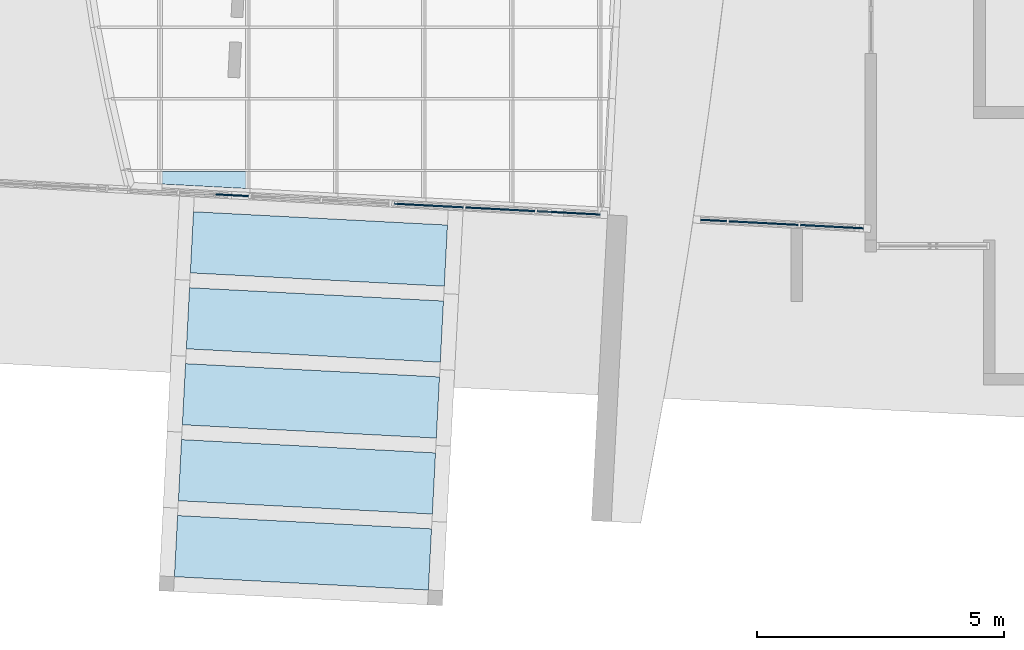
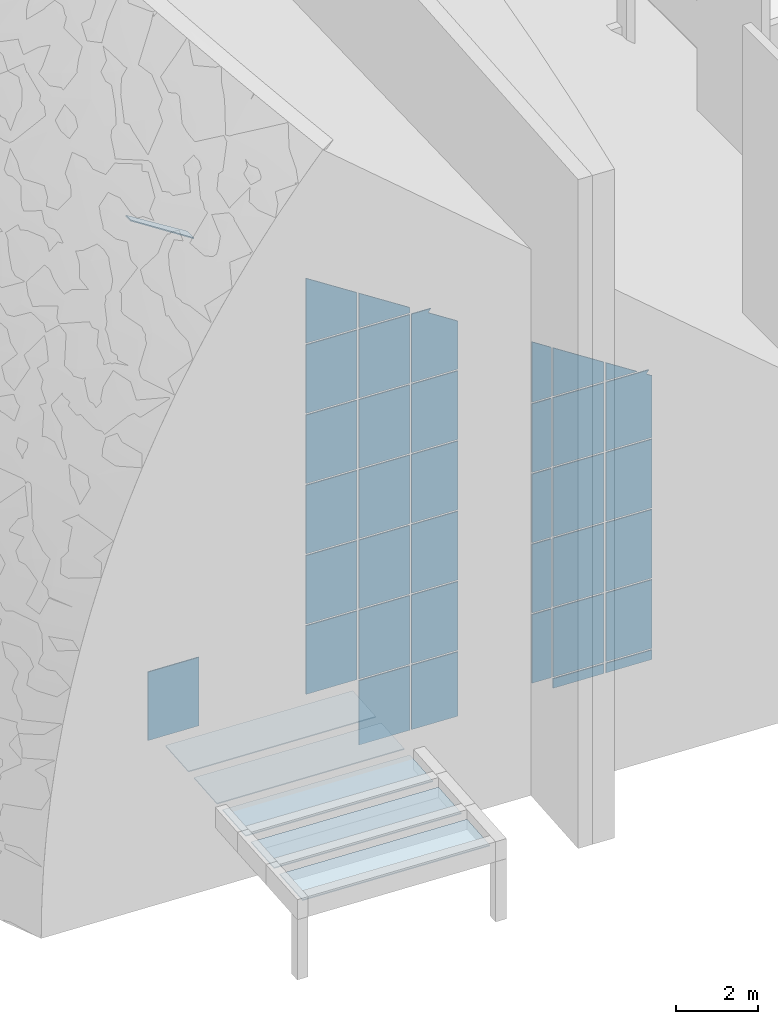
# One storey, part 35 of 82: 43 plates, 3 elements without a shape of their own.
"""IFC2X3 building model written with IfcOpenShell, lengths in millimetres."""

import ifcopenshell
import ifcopenshell.guid

model = None  # the IFC model being written
_history = None  # IfcOwnerHistory: only IFC2X3 demands one
_inside = {}  # id of a spatial element -> (the spatial element, [elements in it])
_under = {}  # id of a project, library or spatial element -> (it, [spatial elements below it])
_declared = {}  # id of a project -> (the project, [libraries it declares])
_typed = {}  # id of a type object -> (the type object, [elements of that type])
_made_of = {}  # id of a material, layer set ... -> (it, [elements and type objects made of it])


def new_model(schema):
    """Start an empty IFC model of exactly this schema.

    Asked for "IFC4X3", IfcOpenShell would pick the latest addendum, in which some entities
    have other attributes; the version numbers below select the first issue.
    IFC2X3 requires an IfcOwnerHistory on every rooted entity: one is made here for all.
    """
    global model, _history
    if schema == "IFC4X3":
        model = ifcopenshell.file(schema_version=(4, 3, 0, 0))
    else:
        model = ifcopenshell.file(schema=schema)
    _inside.clear()
    _under.clear()
    _declared.clear()
    _typed.clear()
    _made_of.clear()
    _history = None
    if model.schema == "IFC2X3":
        org = make("IfcOrganization", Name="unknown")
        user = make(
            "IfcPersonAndOrganization",
            ThePerson=make("IfcPerson", FamilyName="unknown"),
            TheOrganization=org,
        )
        app = make(
            "IfcApplication",
            ApplicationDeveloper=org,
            Version="unknown",
            ApplicationFullName="unknown",
            ApplicationIdentifier="unknown",
        )
        _history = make(
            "IfcOwnerHistory",
            OwningUser=user,
            OwningApplication=app,
            ChangeAction="ADDED",
            CreationDate=0,
        )
    return model


def make(cls, **values):
    """One entity of the class cls with the attributes given. An attribute that is None is left unset."""
    return model.create_entity(
        cls, **{name: value for name, value in values.items() if value is not None}
    )


def entity(cls, *values):
    """Any entity or typed value of the class cls, its attributes in the order of the schema. None: left unset."""
    e = model.create_entity(cls)
    for i, value in enumerate(values):
        if value is not None:
            e[i] = value
    return e


def rooted(cls, **values):
    """An entity with a GlobalId (a new one), such as an element, a storey or a relation."""
    return make(cls, GlobalId=ifcopenshell.guid.new(), OwnerHistory=_history, **values)


def si_unit(unit_type, name, prefix=None):
    """IfcSIUnit, for example si_unit("LENGTHUNIT", "METRE", prefix="MILLI")."""
    return make("IfcSIUnit", UnitType=unit_type, Prefix=prefix, Name=name)


def converted_unit(unit_type, name, factor, base, dimensions=None, offset=None):
    """IfcConversionBasedUnit, such as the inch: factor (a typed value) times the base unit."""
    return make(
        "IfcConversionBasedUnit"
        if offset is None
        else "IfcConversionBasedUnitWithOffset",
        ConversionOffset=offset,
        Dimensions=None
        if dimensions is None
        else entity("IfcDimensionalExponents", *dimensions),
        UnitType=unit_type,
        Name=name,
        ConversionFactor=make(
            "IfcMeasureWithUnit", ValueComponent=factor, UnitComponent=base
        ),
    )


def derived_unit(unit_type, elements):
    """IfcDerivedUnit: a product of units, each with its exponent."""
    return make(
        "IfcDerivedUnit",
        Elements=[
            make("IfcDerivedUnitElement", Unit=unit, Exponent=power)
            for unit, power in elements
        ],
        UnitType=unit_type,
    )


def assignment(units):
    """IfcUnitAssignment: the units of a project."""
    return None if units is None else make("IfcUnitAssignment", Units=units)


def point(xyz):
    """IfcCartesianPoint."""
    return None if xyz is None else make("IfcCartesianPoint", Coordinates=xyz)


def direction(xyz):
    """IfcDirection."""
    return None if xyz is None else make("IfcDirection", DirectionRatios=xyz)


def frame(location, z_axis=None, x_axis=None):
    """IfcAxis2Placement3D, a coordinate frame: its origin and axes. An axis left out is left unset."""
    return make(
        "IfcAxis2Placement3D",
        Location=point(location),
        Axis=direction(z_axis),
        RefDirection=direction(x_axis),
    )


def frame_2d(location, x_axis=None):
    """IfcAxis2Placement2D, a coordinate frame in the plane: its origin and x axis."""
    return make(
        "IfcAxis2Placement2D", Location=point(location), RefDirection=direction(x_axis)
    )


def origin():
    """The frame at (0, 0, 0) with its axes left unset."""
    return frame((0.0, 0.0, 0.0))


def origin_2d_with_axis():
    """The frame at (0, 0) in the plane with the x axis (1, 0) written out."""
    return frame_2d((0.0, 0.0), x_axis=(1.0, 0.0))


def place(relative_to, where):
    """IfcLocalPlacement: puts the frame where relative to a parent placement (None: the world)."""
    return make(
        "IfcLocalPlacement", PlacementRelTo=relative_to, RelativePlacement=where
    )


def context(
    kind, dimensions, precision=None, world=None, true_north=None, identifier=None
):
    """IfcGeometricRepresentationContext, for example the 3D "Model" context."""
    return make(
        "IfcGeometricRepresentationContext",
        ContextIdentifier=identifier,
        ContextType=kind,
        CoordinateSpaceDimension=dimensions,
        Precision=precision,
        WorldCoordinateSystem=world,
        TrueNorth=true_north,
    )


def subcontext(parent, identifier, kind, view, scale=None):
    """IfcGeometricRepresentationSubContext, for example "Body" below "Model"."""
    return make(
        "IfcGeometricRepresentationSubContext",
        ContextIdentifier=identifier,
        ContextType=kind,
        ParentContext=parent,
        TargetScale=scale,
        TargetView=view,
    )


def project(units=None, contexts=None):
    """IfcProject with its units and contexts."""
    return rooted(
        "IfcProject",
        Name="project",
        RepresentationContexts=contexts,
        UnitsInContext=assignment(units),
    )


def spatial(cls, under=None, at=None, **own):
    """A site, building, storey or space (cls), placed at a placement, below another one or the project."""
    s = rooted(cls, ObjectPlacement=at, **own)
    if under is not None:
        _under.setdefault(under.id(), (under, []))[1].append(s)
    return s


def polyline(points):
    """IfcPolyline through the points."""
    return make("IfcPolyline", Points=[point(p) for p in points])


def profile(cls, at=None, kind="AREA", **sizes):
    """A parametric profile (cls). Its sizes go by their IFC names, for example OverallWidth=200.0."""
    return make(cls, ProfileType=kind, Position=at, **sizes)


def rectangle(**sizes):
    """IfcRectangleProfileDef."""
    return profile("IfcRectangleProfileDef", **sizes)


def outline(outer, holes=None, kind="AREA"):
    """IfcArbitraryClosedProfileDef: a profile drawn as a closed curve; with holes, ...WithVoids."""
    if holes is None:
        return make("IfcArbitraryClosedProfileDef", ProfileType=kind, OuterCurve=outer)
    return make(
        "IfcArbitraryProfileDefWithVoids",
        ProfileType=kind,
        OuterCurve=outer,
        InnerCurves=holes,
    )


def extrude(swept, where, along, depth):
    """IfcExtrudedAreaSolid: the profile swept, set in the frame where, extruded along a direction by depth."""
    return make(
        "IfcExtrudedAreaSolid",
        SweptArea=swept,
        Position=where,
        ExtrudedDirection=direction(along),
        Depth=depth,
    )


def shape(context_of_items, identifier, shape_type, items):
    """IfcShapeRepresentation: the items that make up one representation, for example the "Body"."""
    return make(
        "IfcShapeRepresentation",
        ContextOfItems=context_of_items,
        RepresentationIdentifier=identifier,
        RepresentationType=shape_type,
        Items=items,
    )


def source(mapping_origin, context_of_items, identifier, shape_type, items):
    """IfcRepresentationMap: a shape defined once, which mapped items show again and again."""
    return make(
        "IfcRepresentationMap",
        MappingOrigin=mapping_origin,
        MappedRepresentation=shape(context_of_items, identifier, shape_type, items),
    )


def transform(
    local_origin,
    x_axis=None,
    y_axis=None,
    z_axis=None,
    scale=None,
    scale2=None,
    scale3=None,
    uniform=True,
):
    """IfcCartesianTransformationOperator3D, or its non-uniform kind. x_axis, y_axis, z_axis: its Axis1, 2, 3."""
    if uniform:
        return make(
            "IfcCartesianTransformationOperator3D",
            Axis1=direction(x_axis),
            Axis2=direction(y_axis),
            LocalOrigin=point(local_origin),
            Scale=scale,
            Axis3=direction(z_axis),
        )
    return make(
        "IfcCartesianTransformationOperator3DnonUniform",
        Axis1=direction(x_axis),
        Axis2=direction(y_axis),
        LocalOrigin=point(local_origin),
        Scale=scale,
        Axis3=direction(z_axis),
        Scale2=scale2,
        Scale3=scale3,
    )


def mapped(mapping_source, mapping_target):
    """IfcMappedItem: shows the shape of a source again, moved by a transform."""
    return make(
        "IfcMappedItem", MappingSource=mapping_source, MappingTarget=mapping_target
    )


def material(Name=None, Category=None):
    """IfcMaterial."""
    return make("IfcMaterial", Name=Name, Category=Category)


def layer(
    of_material, thickness, ventilated=None, Name=None, Category=None, Priority=None
):
    """IfcMaterialLayer: one layer of a wall or slab, of a material (None: an air gap)."""
    return make(
        "IfcMaterialLayer",
        Material=of_material,
        LayerThickness=thickness,
        IsVentilated=ventilated,
        Name=Name,
        Category=Category,
        Priority=Priority,
    )


def layer_set(layers, Name=None):
    """IfcMaterialLayerSet."""
    return make("IfcMaterialLayerSet", MaterialLayers=layers, LayerSetName=Name)


def layer_usage(for_layer_set, set_direction, sense, offset, extent=None):
    """IfcMaterialLayerSetUsage: how a layer set lies in its element."""
    return make(
        "IfcMaterialLayerSetUsage",
        ForLayerSet=for_layer_set,
        LayerSetDirection=set_direction,
        DirectionSense=sense,
        OffsetFromReferenceLine=offset,
        ReferenceExtent=extent,
    )


def made_of(thing, what):
    """Note that an element or type object is made of a material, layer set ...; save() writes the relation."""
    if what is not None:
        _made_of.setdefault(what.id(), (what, []))[1].append(thing)
    return thing


def type_object(cls, material=None, **own):
    """A type object (cls), such as IfcWallType, which elements share."""
    return made_of(rooted(cls, **own), material)


def type_shapes(of_type, sources):
    """Give a type object the sources (RepresentationMaps) that its elements show as mapped items."""
    of_type.RepresentationMaps = sources


def element(
    cls,
    number,
    at=None,
    inside=None,
    cuts=None,
    type_object=None,
    material=None,
    context=None,
    identifier="Body",
    shape_type=None,
    held_by="IfcProductDefinitionShape",
    body=None,
    shapes=None,
    **own,
):
    """One element of the class cls, such as IfcWall. Its Tag is "e" and its number.

    at: its placement. inside: the storey or other place that contains it. cuts: it is an
    opening in that element (IfcRelVoidsElement). A single representation is given by context,
    identifier, shape_type and body (its items); several are given by shapes. held_by: the class
    of the entity that holds the representations. save() writes the other relations.
    """
    e = rooted(cls, Tag="e%d" % number, ObjectPlacement=at, **own)
    if body is not None:
        shapes = [shape(context, identifier, shape_type, body)]
    if shapes is not None:
        e.Representation = make(held_by, Representations=shapes)
    if inside is not None:
        _inside.setdefault(inside.id(), (inside, []))[1].append(e)
    if cuts is not None:
        rooted(
            "IfcRelVoidsElement", RelatingBuildingElement=cuts, RelatedOpeningElement=e
        )
    if type_object is not None:
        _typed.setdefault(type_object.id(), (type_object, []))[1].append(e)
    return made_of(e, material)


def aggregate(whole, parts):
    """IfcRelAggregates: a whole, such as a stair, and the parts it consists of."""
    return rooted("IfcRelAggregates", RelatingObject=whole, RelatedObjects=parts)


def save(model, path):
    """Write the relations noted so far, then the file.

    IfcRelAggregates (storeys below a building ...), IfcRelContainedInSpatialStructure (elements
    in a storey), IfcRelDefinesByType, IfcRelAssociatesMaterial and IfcRelDeclares: one each for
    every whole, place, type object, material and project.
    """
    for whole, parts in _under.values():
        aggregate(whole, parts)
    for where, things in _inside.values():
        rooted(
            "IfcRelContainedInSpatialStructure",
            RelatedElements=things,
            RelatingStructure=where,
        )
    for kind, things in _typed.values():
        rooted("IfcRelDefinesByType", RelatedObjects=things, RelatingType=kind)
    for what, things in _made_of.values():
        rooted("IfcRelAssociatesMaterial", RelatedObjects=things, RelatingMaterial=what)
    for by, libraries in _declared.values():
        rooted("IfcRelDeclares", RelatingContext=by, RelatedDefinitions=libraries)
    model.write(path)


model = new_model("IFC2X3")

# Units and contexts
model_context = context("Model", 3, precision=0.01, world=origin(), true_north=direction((6.12303176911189e-17, 1.0)))
body_context = subcontext(model_context, "Body", "Model", "MODEL_VIEW")
ifc_project = project(units=[si_unit("LENGTHUNIT", "METRE", prefix="MILLI"), si_unit("AREAUNIT", "SQUARE_METRE"), si_unit("VOLUMEUNIT", "CUBIC_METRE"), converted_unit("PLANEANGLEUNIT", "DEGREE", entity("IfcRatioMeasure", 0.0174532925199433), si_unit("PLANEANGLEUNIT", "RADIAN"), dimensions=[0, 0, 0, 0, 0, 0, 0]), si_unit("MASSUNIT", "GRAM", prefix="KILO"), derived_unit("MASSDENSITYUNIT", [(si_unit("MASSUNIT", "GRAM", prefix="KILO"), 1), (si_unit("LENGTHUNIT", "METRE"), -3)]), si_unit("TIMEUNIT", "SECOND"), si_unit("FREQUENCYUNIT", "HERTZ"), si_unit("THERMODYNAMICTEMPERATUREUNIT", "DEGREE_CELSIUS"), derived_unit("THERMALTRANSMITTANCEUNIT", [(si_unit("MASSUNIT", "GRAM", prefix="KILO"), 1), (si_unit("THERMODYNAMICTEMPERATUREUNIT", "KELVIN"), -1), (si_unit("TIMEUNIT", "SECOND"), -3)]), derived_unit("VOLUMETRICFLOWRATEUNIT", [(si_unit("LENGTHUNIT", "METRE"), 3), (si_unit("TIMEUNIT", "SECOND"), -1)]), si_unit("ELECTRICCURRENTUNIT", "AMPERE"), si_unit("ELECTRICVOLTAGEUNIT", "VOLT"), si_unit("POWERUNIT", "WATT"), si_unit("FORCEUNIT", "NEWTON", prefix="KILO"), si_unit("ILLUMINANCEUNIT", "LUX"), si_unit("LUMINOUSFLUXUNIT", "LUMEN"), si_unit("LUMINOUSINTENSITYUNIT", "CANDELA"), derived_unit("USERDEFINED", [(si_unit("MASSUNIT", "GRAM", prefix="KILO"), -1), (si_unit("LENGTHUNIT", "METRE"), -2), (si_unit("TIMEUNIT", "SECOND"), 3), (si_unit("LUMINOUSFLUXUNIT", "LUMEN"), 1)]), derived_unit("LINEARVELOCITYUNIT", [(si_unit("LENGTHUNIT", "METRE"), 1), (si_unit("TIMEUNIT", "SECOND"), -1)]), si_unit("PRESSUREUNIT", "PASCAL"), derived_unit("USERDEFINED", [(si_unit("LENGTHUNIT", "METRE"), -2), (si_unit("MASSUNIT", "GRAM", prefix="KILO"), 1), (si_unit("TIMEUNIT", "SECOND"), -2)])], contexts=[model_context])

# Site, building, storey
site_placement = place(None, origin())
site = spatial("IfcSite", under=ifc_project, at=site_placement, Name="表面", CompositionType="ELEMENT")
building_placement = place(site_placement, origin())
building = spatial("IfcBuilding", under=site, at=building_placement, CompositionType="ELEMENT")
storey_placement = place(building_placement, origin())
storey = spatial("IfcBuildingStorey", under=building, at=storey_placement, Name="1F", CompositionType="ELEMENT", Elevation=0.0)

# Curtain wall, plates
curtain_wall_type_1 = type_object("IfcCurtainWallType", Name="幕墙系统:1450 x 2100mm", PredefinedType="NOTDEFINED")
curtain_wall_1_placement = place(storey_placement, origin())
curtain_wall_1 = element("IfcCurtainWall", 1, at=curtain_wall_1_placement, inside=storey, type_object=curtain_wall_type_1, Name="幕墙系统:1450 x 2100mm", ObjectType="幕墙系统:1450 x 2100mm")
ifc_material_1 = material(Name="<Unnamed>")
ifc_layer = layer(ifc_material_1, 30.0)
ifc_layer_set = layer_set([ifc_layer], Name="幕墙系统:1450 x 2100mm")
ifc_layer_usage_1 = layer_usage(ifc_layer_set, "AXIS3", "POSITIVE", 0.0)
plate_type_1 = type_object("IfcPlateType", Name="玻璃", PredefinedType="CURTAIN_PANEL", material=ifc_layer_set)
shared_shape_1 = source(origin(), body_context, "Body", "SweptSolid", [
    extrude(rectangle(XDim=30.0, YDim=1400.0, at=frame_2d((0.0, 3.97903932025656e-13), x_axis=(1.0, 0.0))), frame((0.0, 0.0, 0.0), z_axis=(0.0, 0.0, 1.0), x_axis=(0.0, 1.0, 0.0)), (0.0, 0.0, 1.0), 2050.0),
])
type_shapes(plate_type_1, [shared_shape_1])
plate_1_placement = place(curtain_wall_1_placement, frame((-16602.2691507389, -28953.0377218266, 485.207110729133), z_axis=(0.0, 0.0, 1.0), x_axis=(-0.998629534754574, 0.0523359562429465, 0.0)))
plate_1 = element("IfcPlate", 2, at=plate_1_placement, type_object=plate_type_1, material=ifc_layer_usage_1, Name="系统嵌板:玻璃", ObjectType="玻璃", context=body_context, shape_type="MappedRepresentation", body=[
    mapped(shared_shape_1, transform((0.0, 0.0, 0.0), scale=1.0)),
])
ifc_layer_usage_2 = layer_usage(ifc_layer_set, "AXIS3", "POSITIVE", 0.0)
plate_2_placement = place(curtain_wall_1_placement, frame((-16602.2691507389, -28953.0377218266, 2585.20711072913), z_axis=(0.0, 0.0, 1.0), x_axis=(-0.998629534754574, 0.0523359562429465, 0.0)))
plate_2 = element("IfcPlate", 3, at=plate_2_placement, type_object=plate_type_1, material=ifc_layer_usage_2, Name="系统嵌板:玻璃", ObjectType="玻璃", context=body_context, shape_type="MappedRepresentation", body=[
    mapped(shared_shape_1, transform((0.0, 0.0, 0.0), scale=1.0)),
])
ifc_layer_usage_3 = layer_usage(ifc_layer_set, "AXIS3", "POSITIVE", 0.0)
plate_3_placement = place(curtain_wall_1_placement, frame((-16602.2691507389, -28953.0377218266, 4685.20711072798), z_axis=(0.0, 0.0, 1.0), x_axis=(-0.998629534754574, 0.0523359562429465, 0.0)))
plate_3 = element("IfcPlate", 4, at=plate_3_placement, type_object=plate_type_1, material=ifc_layer_usage_3, Name="系统嵌板:玻璃", ObjectType="玻璃", context=body_context, shape_type="MappedRepresentation", body=[
    mapped(shared_shape_1, transform((0.0, 0.0, 0.0), scale=1.0)),
])
ifc_layer_usage_4 = layer_usage(ifc_layer_set, "AXIS3", "POSITIVE", 0.0)
plate_4_placement = place(curtain_wall_1_placement, frame((-16602.2691507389, -28953.0377218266, 6785.20711072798), z_axis=(0.0, 0.0, 1.0), x_axis=(-0.998629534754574, 0.0523359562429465, 0.0)))
plate_4 = element("IfcPlate", 5, at=plate_4_placement, type_object=plate_type_1, material=ifc_layer_usage_4, Name="系统嵌板:玻璃", ObjectType="玻璃", context=body_context, shape_type="MappedRepresentation", body=[
    mapped(shared_shape_1, transform((0.0, 0.0, 0.0), scale=1.0)),
])

curtain_wall_2_placement = place(storey_placement, origin())
curtain_wall_2 = element("IfcCurtainWall", 6, at=curtain_wall_2_placement, inside=storey, type_object=curtain_wall_type_1, Name="幕墙系统:1450 x 2100mm", ObjectType="幕墙系统:1450 x 2100mm")
ifc_layer_usage_5 = layer_usage(ifc_layer_set, "AXIS3", "POSITIVE", 0.0)
plate_5_placement = place(curtain_wall_2_placement, frame((-21932.6324926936, -28673.685216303, 2125.0), z_axis=(0.0, 0.0, 1.0), x_axis=(-0.998629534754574, 0.0523359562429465, 0.0)))
plate_5 = element("IfcPlate", 7, at=plate_5_placement, type_object=plate_type_1, material=ifc_layer_usage_5, Name="系统嵌板:玻璃", ObjectType="玻璃", context=body_context, shape_type="MappedRepresentation", body=[
    mapped(shared_shape_1, transform((0.0, 0.0, 0.0), scale=1.0)),
])
ifc_layer_usage_6 = layer_usage(ifc_layer_set, "AXIS3", "POSITIVE", 0.0)
plate_6_placement = place(curtain_wall_2_placement, frame((-23380.6453180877, -28597.7980797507, 2125.0), z_axis=(0.0, 0.0, 1.0), x_axis=(-0.998629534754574, 0.0523359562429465, 0.0)))
plate_6 = element("IfcPlate", 8, at=plate_6_placement, type_object=plate_type_1, material=ifc_layer_usage_6, Name="系统嵌板:玻璃", ObjectType="玻璃", context=body_context, shape_type="MappedRepresentation", body=[
    mapped(shared_shape_1, transform((0.0, 0.0, 0.0), scale=1.0)),
])
ifc_layer_usage_7 = layer_usage(ifc_layer_set, "AXIS3", "POSITIVE", 0.0)
plate_7_placement = place(curtain_wall_2_placement, frame((-27724.6837942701, -28370.1366700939, 2125.0), z_axis=(0.0, 0.0, 1.0), x_axis=(-0.998629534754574, 0.0523359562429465, 0.0)))
plate_7 = element("IfcPlate", 9, at=plate_7_placement, type_object=plate_type_1, material=ifc_layer_usage_7, Name="系统嵌板:玻璃", ObjectType="玻璃", context=body_context, shape_type="MappedRepresentation", body=[
    mapped(shared_shape_1, transform((0.0, 0.0, 0.0), scale=1.0)),
])
ifc_layer_usage_8 = layer_usage(ifc_layer_set, "AXIS3", "POSITIVE", 0.0)
plate_8_placement = place(curtain_wall_2_placement, frame((-21932.6324926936, -28673.685216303, 4225.0), z_axis=(0.0, 0.0, 1.0), x_axis=(-0.998629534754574, 0.0523359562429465, 0.0)))
plate_8 = element("IfcPlate", 10, at=plate_8_placement, type_object=plate_type_1, material=ifc_layer_usage_8, Name="系统嵌板:玻璃", ObjectType="玻璃", context=body_context, shape_type="MappedRepresentation", body=[
    mapped(shared_shape_1, transform((0.0, 0.0, 0.0), scale=1.0)),
])
ifc_layer_usage_9 = layer_usage(ifc_layer_set, "AXIS3", "POSITIVE", 0.0)
plate_9_placement = place(curtain_wall_2_placement, frame((-23380.6453180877, -28597.7980797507, 4225.0), z_axis=(0.0, 0.0, 1.0), x_axis=(-0.998629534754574, 0.0523359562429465, 0.0)))
plate_9 = element("IfcPlate", 11, at=plate_9_placement, type_object=plate_type_1, material=ifc_layer_usage_9, Name="系统嵌板:玻璃", ObjectType="玻璃", context=body_context, shape_type="MappedRepresentation", body=[
    mapped(shared_shape_1, transform((0.0, 0.0, 0.0), scale=1.0)),
])
ifc_layer_usage_10 = layer_usage(ifc_layer_set, "AXIS3", "POSITIVE", 0.0)
plate_10_placement = place(curtain_wall_2_placement, frame((-21932.6324926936, -28673.685216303, 6325.0), z_axis=(0.0, 0.0, 1.0), x_axis=(-0.998629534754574, 0.0523359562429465, 0.0)))
plate_10 = element("IfcPlate", 12, at=plate_10_placement, type_object=plate_type_1, material=ifc_layer_usage_10, Name="系统嵌板:玻璃", ObjectType="玻璃", context=body_context, shape_type="MappedRepresentation", body=[
    mapped(shared_shape_1, transform((0.0, 0.0, 0.0), scale=1.0)),
])
ifc_layer_usage_11 = layer_usage(ifc_layer_set, "AXIS3", "POSITIVE", 0.0)
plate_11_placement = place(curtain_wall_2_placement, frame((-23380.6453180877, -28597.7980797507, 6325.0), z_axis=(0.0, 0.0, 1.0), x_axis=(-0.998629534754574, 0.0523359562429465, 0.0)))
plate_11 = element("IfcPlate", 13, at=plate_11_placement, type_object=plate_type_1, material=ifc_layer_usage_11, Name="系统嵌板:玻璃", ObjectType="玻璃", context=body_context, shape_type="MappedRepresentation", body=[
    mapped(shared_shape_1, transform((0.0, 0.0, 0.0), scale=1.0)),
])
ifc_layer_usage_12 = layer_usage(ifc_layer_set, "AXIS3", "POSITIVE", 0.0)
plate_12_placement = place(curtain_wall_2_placement, frame((-21932.6324926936, -28673.685216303, 8425.0), z_axis=(0.0, 0.0, 1.0), x_axis=(-0.998629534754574, 0.0523359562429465, 0.0)))
plate_12 = element("IfcPlate", 14, at=plate_12_placement, type_object=plate_type_1, material=ifc_layer_usage_12, Name="系统嵌板:玻璃", ObjectType="玻璃", context=body_context, shape_type="MappedRepresentation", body=[
    mapped(shared_shape_1, transform((0.0, 0.0, 0.0), scale=1.0)),
])
ifc_layer_usage_13 = layer_usage(ifc_layer_set, "AXIS3", "POSITIVE", 0.0)
plate_13_placement = place(curtain_wall_2_placement, frame((-23380.6453180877, -28597.7980797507, 8425.0), z_axis=(0.0, 0.0, 1.0), x_axis=(-0.998629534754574, 0.0523359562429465, 0.0)))
plate_13 = element("IfcPlate", 15, at=plate_13_placement, type_object=plate_type_1, material=ifc_layer_usage_13, Name="系统嵌板:玻璃", ObjectType="玻璃", context=body_context, shape_type="MappedRepresentation", body=[
    mapped(shared_shape_1, transform((0.0, 0.0, 0.0), scale=1.0)),
])
ifc_layer_usage_14 = layer_usage(ifc_layer_set, "AXIS3", "POSITIVE", 0.0)
plate_14_placement = place(curtain_wall_2_placement, frame((-21932.6324926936, -28673.685216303, 10525.0), z_axis=(0.0, 0.0, 1.0), x_axis=(-0.998629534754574, 0.0523359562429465, 0.0)))
plate_14 = element("IfcPlate", 16, at=plate_14_placement, type_object=plate_type_1, material=ifc_layer_usage_14, Name="系统嵌板:玻璃", ObjectType="玻璃", context=body_context, shape_type="MappedRepresentation", body=[
    mapped(shared_shape_1, transform((0.0, 0.0, 0.0), scale=1.0)),
])
ifc_layer_usage_15 = layer_usage(ifc_layer_set, "AXIS3", "POSITIVE", 0.0)
plate_15_placement = place(curtain_wall_2_placement, frame((-23380.6453180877, -28597.7980797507, 10525.0), z_axis=(0.0, 0.0, 1.0), x_axis=(-0.998629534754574, 0.0523359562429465, 0.0)))
plate_15 = element("IfcPlate", 17, at=plate_15_placement, type_object=plate_type_1, material=ifc_layer_usage_15, Name="系统嵌板:玻璃", ObjectType="玻璃", context=body_context, shape_type="MappedRepresentation", body=[
    mapped(shared_shape_1, transform((0.0, 0.0, 0.0), scale=1.0)),
])
ifc_layer_usage_16 = layer_usage(ifc_layer_set, "AXIS3", "POSITIVE", 0.0)
plate_type_2 = type_object("IfcPlateType", Name="玻璃", PredefinedType="CURTAIN_PANEL", material=ifc_layer_set)
shared_shape_2 = source(origin(), body_context, "Body", "SweptSolid", [
    extrude(rectangle(XDim=30.0, YDim=1400.0, at=frame_2d((0.0, 3.97903932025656e-13), x_axis=(1.0, 0.0))), frame((0.0, 0.0, 0.0), z_axis=(0.0, 0.0, 1.0), x_axis=(0.0, 1.0, 0.0)), (0.0, 0.0, 1.0), 1925.0),
])
type_shapes(plate_type_2, [shared_shape_2])
plate_16_placement = place(curtain_wall_2_placement, frame((-21932.6324926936, -28673.685216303, 150.0), z_axis=(0.0, 0.0, 1.0), x_axis=(-0.998629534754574, 0.0523359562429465, 0.0)))
plate_16 = element("IfcPlate", 18, at=plate_16_placement, type_object=plate_type_2, material=ifc_layer_usage_16, Name="系统嵌板:玻璃", ObjectType="玻璃", context=body_context, shape_type="MappedRepresentation", body=[
    mapped(shared_shape_2, transform((0.0, 0.0, 0.0), scale=1.0)),
])

# Plate
ifc_layer_usage_17 = layer_usage(ifc_layer_set, "AXIS3", "POSITIVE", 0.0)
plate_type_3 = type_object("IfcPlateType", Name="玻璃", PredefinedType="CURTAIN_PANEL", material=ifc_layer_set)
shared_shape_3 = source(origin(), body_context, "Body", "SweptSolid", [
    extrude(rectangle(XDim=30.0, YDim=1275.0, at=frame_2d((0.0, 3.97903932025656e-13), x_axis=(1.0, 0.0))), frame((0.0, 0.0, 0.0), z_axis=(0.0, 0.0, 1.0), x_axis=(0.0, 1.0, 0.0)), (0.0, 0.0, 1.0), 285.207110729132),
])
type_shapes(plate_type_3, [shared_shape_3])
plate_17_placement = place(curtain_wall_1_placement, frame((-15216.6706712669, -29025.6538611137, 150.0), z_axis=(0.0, 0.0, 1.0), x_axis=(-0.998629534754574, 0.0523359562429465, 0.0)))
plate_17 = element("IfcPlate", 19, at=plate_17_placement, type_object=plate_type_3, material=ifc_layer_usage_17, Name="系统嵌板:玻璃", ObjectType="玻璃", context=body_context, shape_type="MappedRepresentation", body=[
    mapped(shared_shape_3, transform((0.0, 0.0, 0.0), scale=1.0)),
])

ifc_layer_usage_18 = layer_usage(ifc_layer_set, "AXIS3", "POSITIVE", 0.0)
plate_type_4 = type_object("IfcPlateType", Name="玻璃", PredefinedType="CURTAIN_PANEL", material=ifc_layer_set)
shared_shape_4 = source(origin(), body_context, "Body", "SweptSolid", [
    extrude(rectangle(XDim=30.0, YDim=1400.0, at=frame_2d((0.0, -1.13686837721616e-13), x_axis=(1.0, 0.0))), frame((0.0, 0.0, 0.0), z_axis=(0.0, 0.0, 1.0), x_axis=(0.0, 1.0, 0.0)), (0.0, 0.0, 1.0), 285.207110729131),
])
type_shapes(plate_type_4, [shared_shape_4])
plate_18_placement = place(curtain_wall_1_placement, frame((-16602.2691507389, -28953.0377218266, 150.0), z_axis=(0.0, 0.0, 1.0), x_axis=(-0.998629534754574, 0.0523359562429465, 0.0)))
plate_18 = element("IfcPlate", 20, at=plate_18_placement, type_object=plate_type_4, material=ifc_layer_usage_18, Name="系统嵌板:玻璃", ObjectType="玻璃", context=body_context, shape_type="MappedRepresentation", body=[
    mapped(shared_shape_4, transform((0.0, 0.0, 0.0), scale=1.0)),
])

ifc_layer_usage_19 = layer_usage(ifc_layer_set, "AXIS3", "POSITIVE", 0.0)
plate_type_5 = type_object("IfcPlateType", Name="玻璃", PredefinedType="CURTAIN_PANEL", material=ifc_layer_set)
shared_shape_5 = source(origin(), body_context, "Body", "SweptSolid", [
    extrude(rectangle(XDim=30.0, YDim=1275.0, at=frame_2d((0.0, 3.97903932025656e-13), x_axis=(1.0, 0.0))), frame((0.0, 0.0, 0.0), z_axis=(0.0, 0.0, 1.0), x_axis=(0.0, 1.0, 0.0)), (0.0, 0.0, 1.0), 2050.0),
])
type_shapes(plate_type_5, [shared_shape_5])
plate_19_placement = place(curtain_wall_1_placement, frame((-15216.6706712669, -29025.6538611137, 485.207110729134), z_axis=(0.0, 0.0, 1.0), x_axis=(-0.998629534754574, 0.0523359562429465, 0.0)))
plate_19 = element("IfcPlate", 21, at=plate_19_placement, type_object=plate_type_5, material=ifc_layer_usage_19, Name="系统嵌板:玻璃", ObjectType="玻璃", context=body_context, shape_type="MappedRepresentation", body=[
    mapped(shared_shape_5, transform((0.0, 0.0, 0.0), scale=1.0)),
])

ifc_layer_usage_20 = layer_usage(ifc_layer_set, "AXIS3", "POSITIVE", 0.0)
plate_20_placement = place(curtain_wall_1_placement, frame((-15216.6706712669, -29025.6538611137, 2585.20711072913), z_axis=(0.0, 0.0, 1.0), x_axis=(-0.998629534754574, 0.0523359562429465, 0.0)))
plate_20 = element("IfcPlate", 22, at=plate_20_placement, type_object=plate_type_5, material=ifc_layer_usage_20, Name="系统嵌板:玻璃", ObjectType="玻璃", context=body_context, shape_type="MappedRepresentation", body=[
    mapped(shared_shape_5, transform((0.0, 0.0, 0.0), scale=1.0)),
])

ifc_layer_usage_21 = layer_usage(ifc_layer_set, "AXIS3", "POSITIVE", 0.0)
plate_21_placement = place(curtain_wall_1_placement, frame((-15216.6706712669, -29025.6538611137, 4685.20711072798), z_axis=(0.0, 0.0, 1.0), x_axis=(-0.998629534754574, 0.0523359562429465, 0.0)))
plate_21 = element("IfcPlate", 23, at=plate_21_placement, type_object=plate_type_5, material=ifc_layer_usage_21, Name="系统嵌板:玻璃", ObjectType="玻璃", context=body_context, shape_type="MappedRepresentation", body=[
    mapped(shared_shape_5, transform((0.0, 0.0, 0.0), scale=1.0)),
])

ifc_layer_usage_22 = layer_usage(ifc_layer_set, "AXIS3", "POSITIVE", 0.0)
plate_22_placement = place(curtain_wall_2_placement, frame((-20547.0340132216, -28746.3013555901, 2125.0), z_axis=(0.0, 0.0, 1.0), x_axis=(-0.998629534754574, 0.0523359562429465, 0.0)))
plate_22 = element("IfcPlate", 24, at=plate_22_placement, type_object=plate_type_5, material=ifc_layer_usage_22, Name="系统嵌板:玻璃", ObjectType="玻璃", context=body_context, shape_type="MappedRepresentation", body=[
    mapped(shared_shape_5, transform((0.0, 0.0, 0.0), scale=1.0)),
])

ifc_layer_usage_23 = layer_usage(ifc_layer_set, "AXIS3", "POSITIVE", 0.0)
plate_23_placement = place(curtain_wall_2_placement, frame((-20547.0340132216, -28746.3013555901, 4225.0), z_axis=(0.0, 0.0, 1.0), x_axis=(-0.998629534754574, 0.0523359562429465, 0.0)))
plate_23 = element("IfcPlate", 25, at=plate_23_placement, type_object=plate_type_5, material=ifc_layer_usage_23, Name="系统嵌板:玻璃", ObjectType="玻璃", context=body_context, shape_type="MappedRepresentation", body=[
    mapped(shared_shape_5, transform((0.0, 0.0, 0.0), scale=1.0)),
])

ifc_layer_usage_24 = layer_usage(ifc_layer_set, "AXIS3", "POSITIVE", 0.0)
plate_24_placement = place(curtain_wall_2_placement, frame((-20547.0340132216, -28746.3013555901, 6325.0), z_axis=(0.0, 0.0, 1.0), x_axis=(-0.998629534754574, 0.0523359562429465, 0.0)))
plate_24 = element("IfcPlate", 26, at=plate_24_placement, type_object=plate_type_5, material=ifc_layer_usage_24, Name="系统嵌板:玻璃", ObjectType="玻璃", context=body_context, shape_type="MappedRepresentation", body=[
    mapped(shared_shape_5, transform((0.0, 0.0, 0.0), scale=1.0)),
])

ifc_layer_usage_25 = layer_usage(ifc_layer_set, "AXIS3", "POSITIVE", 0.0)
plate_25_placement = place(curtain_wall_2_placement, frame((-20547.0340132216, -28746.3013555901, 8425.0), z_axis=(0.0, 0.0, 1.0), x_axis=(-0.998629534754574, 0.0523359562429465, 0.0)))
plate_25 = element("IfcPlate", 27, at=plate_25_placement, type_object=plate_type_5, material=ifc_layer_usage_25, Name="系统嵌板:玻璃", ObjectType="玻璃", context=body_context, shape_type="MappedRepresentation", body=[
    mapped(shared_shape_5, transform((0.0, 0.0, 0.0), scale=1.0)),
])

ifc_layer_usage_26 = layer_usage(ifc_layer_set, "AXIS3", "POSITIVE", 0.0)
plate_type_6 = type_object("IfcPlateType", Name="玻璃", PredefinedType="CURTAIN_PANEL", material=ifc_layer_set)
shared_shape_6 = source(origin(), body_context, "Body", "SweptSolid", [
    extrude(rectangle(XDim=30.0, YDim=525.869379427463, at=frame_2d((0.0, 2.8421709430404e-14), x_axis=(1.0, 0.0))), frame((0.0, 0.0, 0.0), z_axis=(0.0, 0.0, 1.0), x_axis=(0.0, 1.0, 0.0)), (0.0, 0.0, 1.0), 2050.0),
])
type_shapes(plate_type_6, [shared_shape_6])
plate_26_placement = place(curtain_wall_1_placement, frame((-17613.8156486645, -28900.0248162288, 485.207110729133), z_axis=(0.0, 0.0, 1.0), x_axis=(-0.998629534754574, 0.0523359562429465, 0.0)))
plate_26 = element("IfcPlate", 28, at=plate_26_placement, type_object=plate_type_6, material=ifc_layer_usage_26, Name="系统嵌板:玻璃", ObjectType="玻璃", context=body_context, shape_type="MappedRepresentation", body=[
    mapped(shared_shape_6, transform((0.0, 0.0, 0.0), scale=1.0)),
])

ifc_layer_usage_27 = layer_usage(ifc_layer_set, "AXIS3", "POSITIVE", 0.0)
plate_27_placement = place(curtain_wall_1_placement, frame((-17613.8156486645, -28900.0248162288, 2585.20711072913), z_axis=(0.0, 0.0, 1.0), x_axis=(-0.998629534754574, 0.0523359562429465, 0.0)))
plate_27 = element("IfcPlate", 29, at=plate_27_placement, type_object=plate_type_6, material=ifc_layer_usage_27, Name="系统嵌板:玻璃", ObjectType="玻璃", context=body_context, shape_type="MappedRepresentation", body=[
    mapped(shared_shape_6, transform((0.0, 0.0, 0.0), scale=1.0)),
])

ifc_layer_usage_28 = layer_usage(ifc_layer_set, "AXIS3", "POSITIVE", 0.0)
plate_28_placement = place(curtain_wall_1_placement, frame((-17613.8156486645, -28900.0248162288, 4685.20711072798), z_axis=(0.0, 0.0, 1.0), x_axis=(-0.998629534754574, 0.0523359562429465, 0.0)))
plate_28 = element("IfcPlate", 30, at=plate_28_placement, type_object=plate_type_6, material=ifc_layer_usage_28, Name="系统嵌板:玻璃", ObjectType="玻璃", context=body_context, shape_type="MappedRepresentation", body=[
    mapped(shared_shape_6, transform((0.0, 0.0, 0.0), scale=1.0)),
])

ifc_layer_usage_29 = layer_usage(ifc_layer_set, "AXIS3", "POSITIVE", 0.0)
plate_29_placement = place(curtain_wall_1_placement, frame((-17613.8156486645, -28900.0248162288, 6785.20711072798), z_axis=(0.0, 0.0, 1.0), x_axis=(-0.998629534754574, 0.0523359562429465, 0.0)))
plate_29 = element("IfcPlate", 31, at=plate_29_placement, type_object=plate_type_6, material=ifc_layer_usage_29, Name="系统嵌板:玻璃", ObjectType="玻璃", context=body_context, shape_type="MappedRepresentation", body=[
    mapped(shared_shape_6, transform((0.0, 0.0, 0.0), scale=1.0)),
])

ifc_layer_usage_30 = layer_usage(ifc_layer_set, "AXIS3", "POSITIVE", 0.0)
plate_type_7 = type_object("IfcPlateType", Name="玻璃", PredefinedType="CURTAIN_PANEL", material=ifc_layer_set)
shared_shape_7 = source(origin(), body_context, "Body", "SweptSolid", [
    extrude(outline(polyline([(-1315.42463196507, -466.753190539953), (529.379324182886, -466.753190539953), (632.319203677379, -301.788869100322), (734.575368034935, -381.198368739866), (734.575368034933, 808.246809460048), (-1315.42463196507, 808.246809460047), (-1315.42463196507, -466.753190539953)])), frame((-170.746809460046, -15.0, 1315.42463196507), z_axis=(0.0, 1.0, 0.0), x_axis=(0.0, 0.0, 1.0)), (0.0, 0.0, 1.0), 30.0),
])
type_shapes(plate_type_7, [shared_shape_7])
plate_30_placement = place(curtain_wall_1_placement, frame((-15216.6706712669, -29025.6538611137, 6785.20711072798), z_axis=(0.0, 0.0, 1.0), x_axis=(-0.998629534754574, 0.0523359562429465, 0.0)))
plate_30 = element("IfcPlate", 32, at=plate_30_placement, type_object=plate_type_7, material=ifc_layer_usage_30, Name="系统嵌板:玻璃", ObjectType="玻璃", context=body_context, shape_type="MappedRepresentation", body=[
    mapped(shared_shape_7, transform((0.0, 0.0, 0.0), scale=1.0)),
])

ifc_layer_usage_31 = layer_usage(ifc_layer_set, "AXIS3", "POSITIVE", 0.0)
plate_type_8 = type_object("IfcPlateType", Name="玻璃", PredefinedType="CURTAIN_PANEL", material=ifc_layer_set)
shared_shape_8 = source(origin(), body_context, "Body", "SweptSolid", [
    extrude(outline(polyline([(-585.18334669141, -152.826316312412), (435.640083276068, -152.826316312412), (149.543263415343, 305.652632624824), (-585.18334669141, -152.826316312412)])), frame((144.340082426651, -15.0, 180.140172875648), z_axis=(0.0, 1.0, 0.0), x_axis=(0.84837442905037, 0.0, 0.529396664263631)), (0.0, 0.0, 1.0), 30.0),
])
type_shapes(plate_type_8, [shared_shape_8])
plate_31_placement = place(curtain_wall_1_placement, frame((-15420.8701915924, -29014.9522177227, 8885.20711072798), z_axis=(0.0, 0.0, 1.0), x_axis=(-0.998629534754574, 0.0523359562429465, 0.0)))
plate_31 = element("IfcPlate", 33, at=plate_31_placement, type_object=plate_type_8, material=ifc_layer_usage_31, Name="系统嵌板:玻璃", ObjectType="玻璃", context=body_context, shape_type="MappedRepresentation", body=[
    mapped(shared_shape_8, transform((0.0, 0.0, 0.0), scale=1.0)),
])

ifc_layer_usage_32 = layer_usage(ifc_layer_set, "AXIS3", "POSITIVE", 0.0)
plate_type_9 = type_object("IfcPlateType", Name="玻璃", PredefinedType="CURTAIN_PANEL", material=ifc_layer_set)
shared_shape_9 = source(origin(), body_context, "Body", "SweptSolid", [
    extrude(outline(polyline([(-504.21513063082, -700.0), (67.4060375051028, -700.0), (941.024223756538, 700.0), (-504.215130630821, 700.0), (-504.21513063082, -700.0)])), frame((0.0, -15.0, 504.215130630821), z_axis=(0.0, 1.0, 0.0), x_axis=(0.0, 0.0, 1.0)), (0.0, 0.0, 1.0), 30.0),
])
type_shapes(plate_type_9, [shared_shape_9])
plate_32_placement = place(curtain_wall_1_placement, frame((-16602.2691507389, -28953.0377218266, 8885.20711072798), z_axis=(0.0, 0.0, 1.0), x_axis=(-0.998629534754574, 0.0523359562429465, 0.0)))
plate_32 = element("IfcPlate", 34, at=plate_32_placement, type_object=plate_type_9, material=ifc_layer_usage_32, Name="系统嵌板:玻璃", ObjectType="玻璃", context=body_context, shape_type="MappedRepresentation", body=[
    mapped(shared_shape_9, transform((0.0, 0.0, 0.0), scale=1.0)),
])

ifc_layer_usage_33 = layer_usage(ifc_layer_set, "AXIS3", "POSITIVE", 0.0)
plate_type_10 = type_object("IfcPlateType", Name="玻璃", PredefinedType="CURTAIN_PANEL", material=ifc_layer_set)
shared_shape_10 = source(origin(), body_context, "Body", "SweptSolid", [
    extrude(outline(polyline([(-820.257332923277, -262.934689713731), (656.182670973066, -262.934689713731), (984.331994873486, 262.934689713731), (-820.257332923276, 262.934689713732), (-820.257332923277, -262.934689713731)])), frame((0.0, -15.0, 820.257332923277), z_axis=(0.0, 1.0, 0.0), x_axis=(0.0, 0.0, 1.0)), (0.0, 0.0, 1.0), 30.0),
])
type_shapes(plate_type_10, [shared_shape_10])
plate_33_placement = place(curtain_wall_1_placement, frame((-17613.8156486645, -28900.0248162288, 8885.20711072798), z_axis=(0.0, 0.0, 1.0), x_axis=(-0.998629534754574, 0.0523359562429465, 0.0)))
plate_33 = element("IfcPlate", 35, at=plate_33_placement, type_object=plate_type_10, material=ifc_layer_usage_33, Name="系统嵌板:玻璃", ObjectType="玻璃", context=body_context, shape_type="MappedRepresentation", body=[
    mapped(shared_shape_10, transform((0.0, 0.0, 0.0), scale=1.0)),
])

aggregate(curtain_wall_1, [plate_17, plate_18, plate_19, plate_1, plate_26, plate_20, plate_2, plate_27, plate_21, plate_3, plate_28, plate_30, plate_4, plate_29, plate_31, plate_32, plate_33])

ifc_layer_usage_34 = layer_usage(ifc_layer_set, "AXIS3", "POSITIVE", 0.0)
plate_type_11 = type_object("IfcPlateType", Name="玻璃", PredefinedType="CURTAIN_PANEL", material=ifc_layer_set)
shared_shape_11 = source(origin(), body_context, "Body", "SweptSolid", [
    extrude(outline(polyline([(-1025.0, -147.579987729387), (1025.0, -147.579987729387), (1025.0, 102.024562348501), (-1025.0, 193.135413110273), (-1025.0, -147.579987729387)])), frame((-22.7777126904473, -15.0, 1025.0), z_axis=(0.0, 1.0, 0.0), x_axis=(0.0, 0.0, 1.0)), (0.0, 0.0, 1.0), 30.0),
])
type_shapes(plate_type_11, [shared_shape_11])
plate_34_placement = place(curtain_wall_2_placement, frame((-27063.9048231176, -28084.2608539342, 16607.6015981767), z_axis=(-0.848048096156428, 0.0, 0.529919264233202), x_axis=(0.0, -1.0, 0.0)))
plate_34 = element("IfcPlate", 36, at=plate_34_placement, type_object=plate_type_11, material=ifc_layer_usage_34, Name="系统嵌板:玻璃", ObjectType="玻璃", context=body_context, shape_type="MappedRepresentation", body=[
    mapped(shared_shape_11, transform((0.0, 0.0, 0.0), scale=1.0)),
])

ifc_layer_usage_35 = layer_usage(ifc_layer_set, "AXIS3", "POSITIVE", 0.0)
plate_type_12 = type_object("IfcPlateType", Name="玻璃", PredefinedType="CURTAIN_PANEL", material=ifc_layer_set)
shared_shape_12 = source(origin(), body_context, "Body", "SweptSolid", [
    extrude(rectangle(XDim=30.0, YDim=1275.0, at=frame_2d((0.0, 3.97903932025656e-13), x_axis=(1.0, 0.0))), frame((0.0, 0.0, 0.0), z_axis=(0.0, 0.0, 1.0), x_axis=(0.0, 1.0, 0.0)), (0.0, 0.0, 1.0), 1925.0),
])
type_shapes(plate_type_12, [shared_shape_12])
plate_35_placement = place(curtain_wall_2_placement, frame((-20547.0340132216, -28746.3013555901, 150.0), z_axis=(0.0, 0.0, 1.0), x_axis=(-0.998629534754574, 0.0523359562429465, 0.0)))
plate_35 = element("IfcPlate", 37, at=plate_35_placement, type_object=plate_type_12, material=ifc_layer_usage_35, Name="系统嵌板:玻璃", ObjectType="玻璃", context=body_context, shape_type="MappedRepresentation", body=[
    mapped(shared_shape_12, transform((0.0, 0.0, 0.0), scale=1.0)),
])

ifc_layer_usage_36 = layer_usage(ifc_layer_set, "AXIS3", "POSITIVE", 0.0)
plate_type_13 = type_object("IfcPlateType", Name="玻璃", PredefinedType="CURTAIN_PANEL", material=ifc_layer_set)
shared_shape_13 = source(origin(), body_context, "Body", "SweptSolid", [
    extrude(outline(polyline([(-1247.25593157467, -685.238066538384), (188.535822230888, -685.238066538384), (700.487904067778, 135.180882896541), (802.744068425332, 55.7713832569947), (802.744068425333, 589.761933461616), (-1247.25593157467, 589.761933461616), (-1247.25593157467, -685.238066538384)])), frame((47.738066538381, -15.0, 1247.25593157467), z_axis=(0.0, 1.0, 0.0), x_axis=(0.0, 0.0, 1.0)), (0.0, 0.0, 1.0), 30.0),
])
type_shapes(plate_type_13, [shared_shape_13])
plate_36_placement = place(curtain_wall_2_placement, frame((-20547.0340132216, -28746.3013555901, 10525.0), z_axis=(0.0, 0.0, 1.0), x_axis=(-0.998629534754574, 0.0523359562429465, 0.0)))
plate_36 = element("IfcPlate", 38, at=plate_36_placement, type_object=plate_type_13, material=ifc_layer_usage_36, Name="系统嵌板:玻璃", ObjectType="玻璃", context=body_context, shape_type="MappedRepresentation", body=[
    mapped(shared_shape_13, transform((0.0, 0.0, 0.0), scale=1.0)),
])

ifc_layer_usage_37 = layer_usage(ifc_layer_set, "AXIS3", "POSITIVE", 0.0)
plate_type_14 = type_object("IfcPlateType", Name="玻璃", PredefinedType="CURTAIN_PANEL", material=ifc_layer_set)
shared_shape_14 = source(origin(), body_context, "Body", "SweptSolid", [
    extrude(outline(polyline([(-299.709029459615, -700.0), (-137.100063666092, -700.0), (736.518122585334, 700.0), (-299.709029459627, 700.0), (-299.709029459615, -700.0)])), frame((0.0, -15.0, 299.709029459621), z_axis=(0.0, 1.0, 0.0), x_axis=(0.0, 0.0, 1.0)), (0.0, 0.0, 1.0), 30.0),
])
type_shapes(plate_type_14, [shared_shape_14])
plate_37_placement = place(curtain_wall_2_placement, frame((-21932.6324926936, -28673.685216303, 12625.0), z_axis=(0.0, 0.0, 1.0), x_axis=(-0.998629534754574, 0.0523359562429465, 0.0)))
plate_37 = element("IfcPlate", 39, at=plate_37_placement, type_object=plate_type_14, material=ifc_layer_usage_37, Name="系统嵌板:玻璃", ObjectType="玻璃", context=body_context, shape_type="MappedRepresentation", body=[
    mapped(shared_shape_14, transform((0.0, 0.0, 0.0), scale=1.0)),
])

ifc_layer_usage_38 = layer_usage(ifc_layer_set, "AXIS3", "POSITIVE", 0.0)
plate_type_15 = type_object("IfcPlateType", Name="玻璃", PredefinedType="CURTAIN_PANEL", material=ifc_layer_set)
shared_shape_15 = source(origin(), body_context, "Body", "SweptSolid", [
    extrude(outline(polyline([(-752.118447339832, -700.0), (315.30935421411, -700.0), (1188.92754046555, 700.0), (-752.118447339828, 700.0), (-752.118447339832, -700.0)])), frame((0.0, -15.0, 752.11844733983), z_axis=(0.0, 1.0, 0.0), x_axis=(0.0, 0.0, 1.0)), (0.0, 0.0, 1.0), 30.0),
])
type_shapes(plate_type_15, [shared_shape_15])
plate_38_placement = place(curtain_wall_2_placement, frame((-23380.6453180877, -28597.7980797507, 12625.0), z_axis=(0.0, 0.0, 1.0), x_axis=(-0.998629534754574, 0.0523359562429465, 0.0)))
plate_38 = element("IfcPlate", 40, at=plate_38_placement, type_object=plate_type_15, material=ifc_layer_usage_38, Name="系统嵌板:玻璃", ObjectType="玻璃", context=body_context, shape_type="MappedRepresentation", body=[
    mapped(shared_shape_15, transform((0.0, 0.0, 0.0), scale=1.0)),
])

aggregate(curtain_wall_2, [plate_34, plate_35, plate_16, plate_22, plate_5, plate_6, plate_7, plate_23, plate_8, plate_9, plate_24, plate_10, plate_11, plate_25, plate_12, plate_13, plate_36, plate_14, plate_15, plate_37, plate_38])

# Roof, plates
curtain_wall_type_2 = type_object("IfcCurtainWallType", Name="玻璃斜窗:玻璃斜窗", PredefinedType="NOTDEFINED")
roof_placement = place(storey_placement, origin())
roof = element("IfcRoof", 41, at=roof_placement, inside=storey, type_object=curtain_wall_type_2, Name="玻璃斜窗:玻璃斜窗", ObjectType="玻璃斜窗:玻璃斜窗:338", ShapeType="NOTDEFINED")
ifc_material_2 = material(Name="玻璃")
plate_type_16 = type_object("IfcPlateType", Name="玻璃嵌板", PredefinedType="CURTAIN_PANEL", material=ifc_material_2)
shared_shape_16 = source(origin(), body_context, "Body", "SweptSolid", [
    extrude(rectangle(XDim=30.0, YDim=5149.99999999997, at=origin_2d_with_axis()), frame((0.0, 0.0, 0.0), z_axis=(0.0, 0.0, 1.0), x_axis=(0.0, 1.0, 0.0)), (0.0, 0.0, 1.0), 1240.0),
])
type_shapes(plate_type_16, [shared_shape_16])
plate_39_placement = place(roof_placement, frame((-25959.5766159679, -36248.3120076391, 2100.0), z_axis=(0.0523359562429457, 0.998629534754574, 0.0), x_axis=(0.998629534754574, -0.0523359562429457, 0.0)))
plate_39 = element("IfcPlate", 42, at=plate_39_placement, type_object=plate_type_16, material=ifc_material_2, Name="玻璃嵌板:玻璃嵌板", ObjectType="玻璃嵌板", context=body_context, shape_type="MappedRepresentation", body=[
    mapped(shared_shape_16, transform((0.0, 0.0, 0.0), scale=1.0)),
])
plate_40_placement = place(roof_placement, frame((-25878.9792433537, -34710.4225241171, 2100.0), z_axis=(0.0523359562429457, 0.998629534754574, 0.0), x_axis=(0.998629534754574, -0.0523359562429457, 0.0)))
plate_40 = element("IfcPlate", 43, at=plate_40_placement, type_object=plate_type_16, material=ifc_material_2, Name="玻璃嵌板:玻璃嵌板", ObjectType="玻璃嵌板", context=body_context, shape_type="MappedRepresentation", body=[
    mapped(shared_shape_16, transform((0.0, 0.0, 0.0), scale=1.0)),
])
plate_41_placement = place(roof_placement, frame((-25798.3818707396, -33172.533040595, 2100.0), z_axis=(0.0523359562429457, 0.998629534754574, 0.0), x_axis=(0.998629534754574, -0.0523359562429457, 0.0)))
plate_41 = element("IfcPlate", 44, at=plate_41_placement, type_object=plate_type_16, material=ifc_material_2, Name="玻璃嵌板:玻璃嵌板", ObjectType="玻璃嵌板", context=body_context, shape_type="MappedRepresentation", body=[
    mapped(shared_shape_16, transform((0.0, 0.0, 0.0), scale=1.0)),
])
plate_42_placement = place(roof_placement, frame((-25717.7844981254, -31634.643557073, 2100.0), z_axis=(0.0523359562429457, 0.998629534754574, 0.0), x_axis=(0.998629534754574, -0.0523359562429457, 0.0)))
plate_42 = element("IfcPlate", 45, at=plate_42_placement, type_object=plate_type_16, material=ifc_material_2, Name="玻璃嵌板:玻璃嵌板", ObjectType="玻璃嵌板", context=body_context, shape_type="MappedRepresentation", body=[
    mapped(shared_shape_16, transform((0.0, 0.0, 0.0), scale=1.0)),
])
plate_43_placement = place(roof_placement, frame((-25637.1871255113, -30096.7540735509, 2100.0), z_axis=(0.0523359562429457, 0.998629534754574, 0.0), x_axis=(0.998629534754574, -0.0523359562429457, 0.0)))
plate_43 = element("IfcPlate", 46, at=plate_43_placement, type_object=plate_type_16, material=ifc_material_2, Name="玻璃嵌板:玻璃嵌板", ObjectType="玻璃嵌板", context=body_context, shape_type="MappedRepresentation", body=[
    mapped(shared_shape_16, transform((0.0, 0.0, 0.0), scale=1.0)),
])
aggregate(roof, [plate_39, plate_40, plate_41, plate_42, plate_43])

save(model, "model.ifc")
